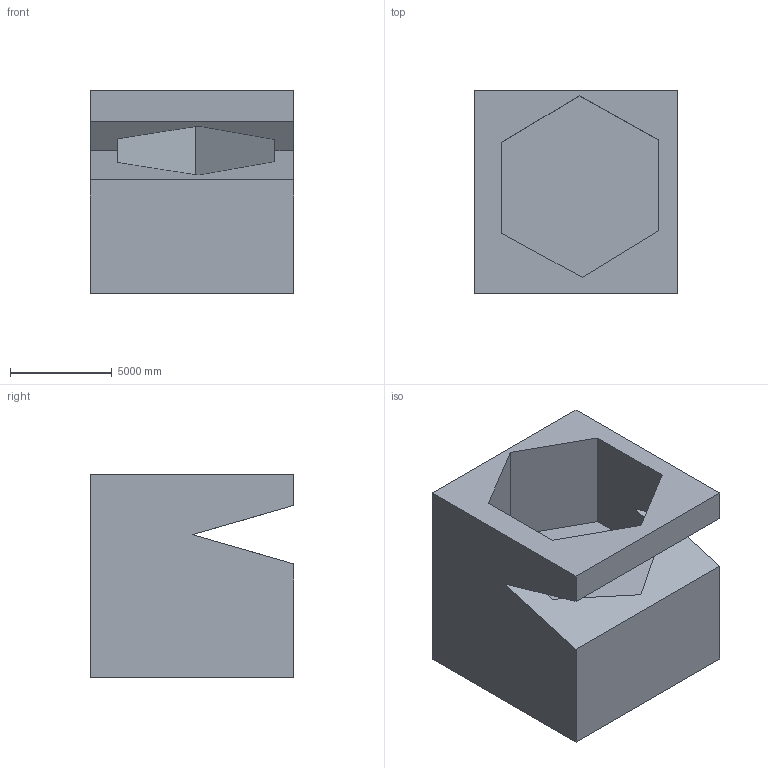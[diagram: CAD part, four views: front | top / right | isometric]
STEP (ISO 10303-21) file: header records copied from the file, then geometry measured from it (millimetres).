
FILE_DESCRIPTION (( 'STEP AP203' ), '1' );
FILE_NAME ('100.STEP', '2022-09-06T15:04:58', ( 'user' ), ( '' ), 'SwSTEP 2.0', 'SolidWorks 2021', '' );
FILE_SCHEMA (( 'CONFIG_CONTROL_DESIGN' ));
Length unit declared in the file: centimetre
Products named in the file (1): 100
Bounding box: 10000 x 10000 x 10000 mm (x, y, z)
Volume: 689079268721 mm3; surface area: 728035308.6 mm2
Topology: 1 solids, 1 shells, 18 faces, 51 edges, 34 vertices
Faces by surface type: plane 18
Entity records: 656 total; most frequent: CARTESIAN_POINT 104, ORIENTED_EDGE 102, DIRECTION 89, LINE 51, VECTOR 51, EDGE_CURVE 51, VERTEX_POINT 34, EDGE_LOOP 19
